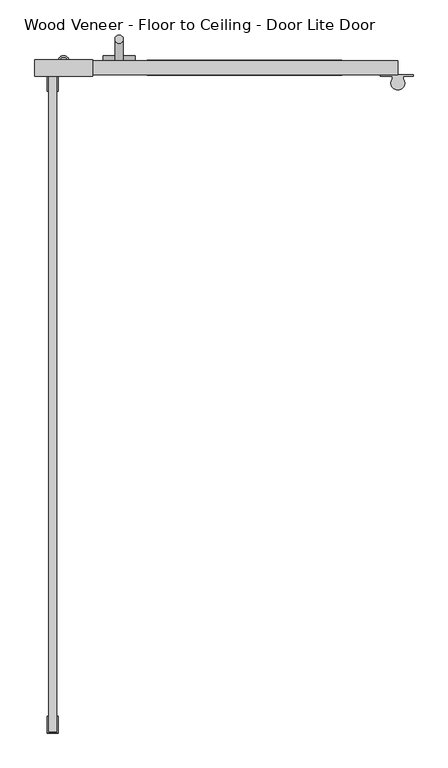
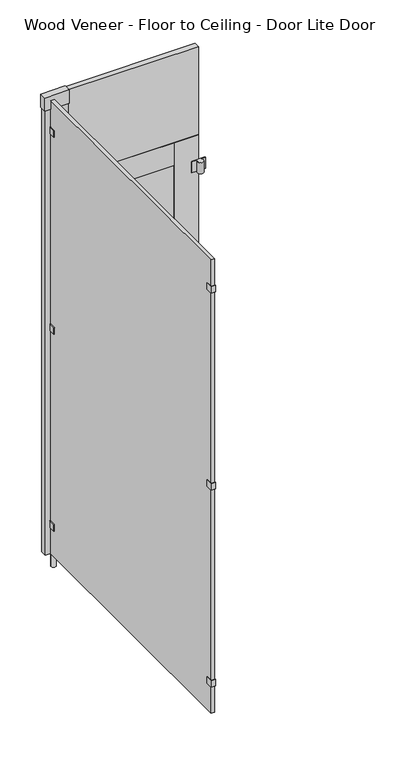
"""IFC4 building model written with IfcOpenShell, lengths in millimetres: proxy geometry, Toilet-Partition_Ironwood-Mfg_Wood-Veneer : Wood Veneer - Floor to Ceiling - Door Lite Door."""

from ifc_helpers import new_model, si_unit, point, frame, frame_2d, origin, place, context, project, spatial, polyline, circle_curve, ellipse_curve, trimmed, segment, composite_curve, outline, extrude, source, transform, mapped, element, save
from ifc_brep_helpers import plane_surface, cylinder_surface, revolved_surface, advanced_brep


def wood_veneer_floor_to_ceiling_door_lite_door_7aed59c0(model_context):
    return source(origin(), model_context, "Body", "SolidModel", [
        advanced_brep(
        [(-177.8, 1555.75, 0.0), (-165.1, 1555.75, 0.0), (-190.5, 1555.75, 0.0), (-165.1, 1555.75, 99.6259642), (-190.5, 1555.75, 99.6259642), (-169.3333333, 1555.75, 101.6), (-186.2666667, 1555.75, 101.6), (-169.3333333, 1555.75, 131.3759642), (-186.2666667, 1555.75, 131.3759642), (-177.8, 1555.75, 131.3759642)],
        [
            (0, 1),
            (1, 2, circle_curve(frame((-177.8, 1555.75, 0.0), z_axis=(0.0, 0.0, -1.0), x_axis=(-1.0, 0.0, 0.0)), 12.7)),
            (2, 0),
            (2, 1, circle_curve(frame((-177.8, 1555.75, 0.0), z_axis=(0.0, 0.0, -1.0), x_axis=(-1.0, 0.0, 0.0)), 12.7)),
            (1, 3),
            (3, 4, circle_curve(frame((-177.8, 1555.75, 99.6259642), z_axis=(0.0, 0.0, -1.0), x_axis=(-1.0, 0.0, 0.0)), 12.7)),
            (4, 2),
            (4, 3, circle_curve(frame((-177.8, 1555.75, 99.6259642), z_axis=(0.0, 0.0, -1.0), x_axis=(-1.0, 0.0, 0.0)), 12.7)),
            (3, 5),
            (5, 6, circle_curve(frame((-177.8, 1555.75, 101.6), z_axis=(0.0, 0.0, -1.0), x_axis=(-1.0, 0.0, 0.0)), 8.4666667)),
            (6, 4),
            (6, 5, circle_curve(frame((-177.8, 1555.75, 101.6), z_axis=(0.0, 0.0, -1.0), x_axis=(-1.0, 0.0, 0.0)), 8.4666667)),
            (5, 7),
            (7, 8, circle_curve(frame((-177.8, 1555.75, 131.3759642), z_axis=(0.0, 0.0, -1.0), x_axis=(-1.0, 0.0, 0.0)), 8.4666667)),
            (8, 6),
            (8, 7, circle_curve(frame((-177.8, 1555.75, 131.3759642), z_axis=(0.0, 0.0, -1.0), x_axis=(-1.0, 0.0, 0.0)), 8.4666667)),
            (7, 9),
            (9, 8),
        ],
        [
            plane_surface(frame((-177.8, 1555.75, 0.0), z_axis=(0.0, 0.0, -1.0), x_axis=(-1.0, 0.0, 0.0))),
            cylinder_surface(frame((-177.8, 1555.75, 131.3759642), z_axis=(0.0, 0.0, -1.0), x_axis=(-1.0, 0.0, 0.0)), 12.7),
            revolved_surface(polyline([(-186.2666667, 1555.75, 101.6), (-190.5, 1555.75, 99.6259642)]), (-177.8, 1555.75, 131.3759642), (0.0, 0.0, -1.0)),
            cylinder_surface(frame((-177.8, 1555.75, 131.3759642), z_axis=(0.0, 0.0, -1.0), x_axis=(-1.0, 0.0, 0.0)), 8.4666667),
            plane_surface(frame((-177.8, 1555.75, 131.3759642), z_axis=(0.0, 0.0, 1.0), x_axis=(-1.0, 0.0, 0.0))),
        ],
        [
            (0, [[1, 2, 3]]),
            (0, [[-3, 4, -1]]),
            (1, [[5, 6, 7, -2]]),
            (1, [[-7, 8, -5, -4]]),
            (2, [[9, 10, 11, -6]]),
            (2, [[-11, 12, -9, -8]]),
            (3, [[13, 14, 15, -10]]),
            (3, [[-15, 16, -13, -12]]),
            (4, [[17, 18, -14]]),
            (4, [[-18, -17, -16]]),
        ],
    ),
        extrude(outline(polyline([(-111.125, 1558.925), (-111.125, 1520.825), (-244.475, 1520.825), (-244.475, 1558.925), (-111.125, 1558.925)])), frame((0.0, 0.0, 2667.0), z_axis=(0.0, 0.0, 1.0), x_axis=(1.0, 0.0, 0.0)), (0.0, 0.0, 1.0), 76.1999999),
        extrude(outline(polyline([(-241.3, 1524.0), (-241.3, 1555.75), (-114.3, 1555.75), (-114.3, 1524.0), (-241.3, 1524.0)])), frame((0.0, 0.0, 101.6), z_axis=(0.0, 0.0, 1.0), x_axis=(1.0, 0.0, 0.0)), (0.0, 0.0, 1.0), 2565.4),
        extrude(outline(polyline([(466.725, 1544.6375), (466.725, 1535.1125), (15.875, 1535.1125), (15.875, 1544.6375), (466.725, 1544.6375)])), frame((0.0, 0.0, 1081.0875), z_axis=(0.0, 0.0, 1.0), x_axis=(1.0, 0.0, 0.0)), (0.0, 0.0, 1.0), 1023.9375),
        extrude(outline(polyline([(466.725, 1544.6375), (466.725, 1535.1125), (15.875, 1535.1125), (15.875, 1544.6375), (466.725, 1544.6375)])), frame((0.0, 0.0, 276.225), z_axis=(0.0, 0.0, 1.0), x_axis=(1.0, 0.0, 0.0)), (0.0, 0.0, 1.0), 674.6875),
        extrude(outline(polyline([(466.725, 1522.4125), (15.875, 1522.4125), (15.875, 1557.3375), (466.725, 1557.3375), (466.725, 1522.4125)])), frame((0.0, 0.0, 950.9125), z_axis=(0.0, 0.0, 1.0), x_axis=(1.0, 0.0, 0.0)), (0.0, 0.0, 1.0), 130.175),
        extrude(outline(polyline([(15.875, 1524.0), (-114.3, 1524.0), (-114.3, 1555.75), (15.875, 1555.75), (15.875, 1524.0)])), frame((0.0, 0.0, 101.6), z_axis=(0.0, 0.0, 1.0), x_axis=(1.0, 0.0, 0.0)), (0.0, 0.0, 1.0), 2133.6),
        extrude(outline(polyline([(466.725, 1524.0), (466.725, 1555.75), (596.9, 1555.75), (596.9, 1524.0), (466.725, 1524.0)])), frame((0.0, 0.0, 101.6), z_axis=(0.0, 0.0, 1.0), x_axis=(1.0, 0.0, 0.0)), (0.0, 0.0, 1.0), 2133.6),
        extrude(outline(polyline([(466.725, 1524.0), (15.875, 1524.0), (15.875, 1555.75), (466.725, 1555.75), (466.725, 1524.0)])), frame((0.0, 0.0, 2105.025), z_axis=(0.0, 0.0, 1.0), x_axis=(1.0, 0.0, 0.0)), (0.0, 0.0, 1.0), 130.175),
        extrude(outline(polyline([(466.725, 1524.0), (15.875, 1524.0), (15.875, 1555.75), (466.725, 1555.75), (466.725, 1524.0)])), frame((0.0, 0.0, 101.6), z_axis=(0.0, 0.0, 1.0), x_axis=(1.0, 0.0, 0.0)), (0.0, 0.0, 1.0), 174.625),
        extrude(outline(composite_curve([segment(trimmed(circle_curve(frame_2d((954.0875, -49.2125)), 36.5125), [point((954.0875, -85.725))], [point((954.0875, -12.7))], False, "CARTESIAN"), True, "CONTINUOUS"), segment(trimmed(circle_curve(frame_2d((954.0875, -49.2125)), 36.5125), [point((954.0875, -12.7))], [point((954.0875, -85.725))], False, "CARTESIAN"), True, "CONTINUOUS")], self_intersect=False)), frame((0.0, 1555.75, 0.0), z_axis=(0.0, 1.0, 0.0), x_axis=(0.0, 0.0, 1.0)), (0.0, 0.0, 1.0), 12.7),
        advanced_brep(
        [(-58.7375, 1555.75, 1219.2), (-39.6875, 1555.75, 1219.2), (-58.7375, 1555.75, 1117.6), (-39.6875, 1555.75, 1117.6), (-58.7375, 1606.55, 1219.2), (-39.6875, 1606.55, 1219.2), (-58.7375, 1606.55, 1117.6), (-39.6875, 1606.55, 1117.6), (-58.7375, 1606.55, 1270.0), (-39.6875, 1606.55, 1270.0), (-58.7375, 1606.55, 1066.8), (-39.6875, 1606.55, 1066.8)],
        [
            (0, 1, circle_curve(frame((-49.2125, 1555.75, 1219.2), z_axis=(0.0, -1.0, 0.0), x_axis=(1.0, 0.0, 0.0)), 9.525)),
            (1, 0, circle_curve(frame((-49.2125, 1555.75, 1219.2), z_axis=(0.0, -1.0, 0.0), x_axis=(1.0, 0.0, 0.0)), 9.525)),
            (2, 3, circle_curve(frame((-49.2125, 1555.75, 1117.6), z_axis=(0.0, -1.0, 0.0), x_axis=(1.0, 0.0, 0.0)), 9.525)),
            (3, 2, circle_curve(frame((-49.2125, 1555.75, 1117.6), z_axis=(0.0, -1.0, 0.0), x_axis=(1.0, 0.0, 0.0)), 9.525)),
            (0, 4),
            (4, 5, ellipse_curve(frame((-49.2125, 1606.55, 1219.2), z_axis=(0.0, -0.7071067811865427, 0.7071067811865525), x_axis=(0.0, 0.7071067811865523, 0.7071067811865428)), 13.4703842, 9.525)),
            (5, 1),
            (5, 4, ellipse_curve(frame((-49.2125, 1606.55, 1219.2), z_axis=(0.0, -0.7071067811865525, -0.7071067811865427), x_axis=(0.0, 0.7071067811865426, -0.7071067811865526)), 13.4703842, 9.525)),
            (2, 6),
            (6, 7, ellipse_curve(frame((-49.2125, 1606.55, 1117.6), z_axis=(0.0, -0.7071067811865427, 0.7071067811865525), x_axis=(0.0, 0.7071067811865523, 0.7071067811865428)), 13.4703842, 9.525)),
            (7, 3),
            (7, 6, ellipse_curve(frame((-49.2125, 1606.55, 1117.6), z_axis=(0.0, -0.7071067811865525, -0.7071067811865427), x_axis=(0.0, 0.7071067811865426, -0.7071067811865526)), 13.4703842, 9.525)),
            (8, 9, circle_curve(frame((-49.2125, 1606.55, 1270.0), z_axis=(0.0, 0.0, 1.0), x_axis=(1.0, 0.0, 0.0)), 9.525)),
            (9, 8, circle_curve(frame((-49.2125, 1606.55, 1270.0), z_axis=(0.0, 0.0, 1.0), x_axis=(1.0, 0.0, 0.0)), 9.525)),
            (10, 11, circle_curve(frame((-49.2125, 1606.55, 1066.8), z_axis=(0.0, 0.0, -1.0), x_axis=(1.0, 0.0, 0.0)), 9.525)),
            (11, 10, circle_curve(frame((-49.2125, 1606.55, 1066.8), z_axis=(0.0, 0.0, -1.0), x_axis=(1.0, 0.0, 0.0)), 9.525)),
            (9, 5),
            (5, 7),
            (7, 11),
            (10, 6),
            (6, 4),
            (4, 8),
        ],
        [
            plane_surface(frame((-39.6875, 1555.75, 1219.2), z_axis=(0.0, -1.0, 0.0), x_axis=(0.0, 0.0, -1.0))),
            cylinder_surface(frame((-49.2125, 1555.75, 1219.2), z_axis=(0.0, 1.0, 0.0), x_axis=(1.0, 0.0, 0.0)), 9.525),
            cylinder_surface(frame((-49.2125, 1555.75, 1117.6), z_axis=(0.0, 1.0, 0.0), x_axis=(1.0, 0.0, 0.0)), 9.525),
            plane_surface(frame((-39.6875, 1606.55, 1270.0), z_axis=(0.0, 0.0, 1.0), x_axis=(0.0, -1.0, 0.0))),
            plane_surface(frame((-39.6875, 1606.55, 1066.8), z_axis=(0.0, 0.0, -1.0), x_axis=(0.0, 1.0, 0.0))),
            cylinder_surface(frame((-49.2125, 1606.55, 1066.8), z_axis=(0.0, 0.0, 1.0), x_axis=(1.0, 0.0, 0.0)), 9.525),
        ],
        [
            (0, [[1, 2]]),
            (0, [[3, 4]]),
            (1, [[5, 6, 7, -1]]),
            (1, [[-7, 8, -5, -2]]),
            (2, [[9, 10, 11, -3]]),
            (2, [[-11, 12, -9, -4]]),
            (3, [[13, 14]]),
            (4, [[15, 16]]),
            (5, [[17, 18, 19, -15, 20, 21, 22, -14]]),
            (5, [[-12, -18, -6, -21]]),
            (5, [[-22, -8, -17, -13]]),
            (5, [[-19, -10, -20, -16]]),
        ],
    ),
        extrude(outline(composite_curve([segment(polyline([(632.1737081, 1524.0), (632.1737081, 1520.825), (609.2512919, 1520.825), (609.2512919, 1514.9581331)]), True, "CONTINUOUS"), segment(trimmed(circle_curve(frame_2d((596.9, 1504.8902139)), 15.9347861), [point((609.2512919, 1514.9581331))], [point((584.5487081, 1514.9581331))], False, "CARTESIAN"), True, "CONTINUOUS"), segment(polyline([(584.5487081, 1514.9581331), (584.5487081, 1520.825), (555.9737081, 1520.825), (555.9737081, 1524.0), (632.1737081, 1524.0)]), True, "CONTINUOUS")], self_intersect=False)), frame((0.0, 0.0, 2032.0), z_axis=(0.0, 0.0, 1.0), x_axis=(1.0, 0.0, 0.0)), (0.0, 0.0, 1.0), 63.5),
        extrude(outline(composite_curve([segment(polyline([(632.1737081, 1524.0), (632.1737081, 1520.825), (609.2512919, 1520.825), (609.2512919, 1514.9581331)]), True, "CONTINUOUS"), segment(trimmed(circle_curve(frame_2d((596.9, 1504.8902139)), 15.9347861), [point((609.2512919, 1514.9581331))], [point((584.5487081, 1514.9581331))], False, "CARTESIAN"), True, "CONTINUOUS"), segment(polyline([(584.5487081, 1514.9581331), (584.5487081, 1520.825), (555.9737081, 1520.825), (555.9737081, 1524.0), (632.1737081, 1524.0)]), True, "CONTINUOUS")], self_intersect=False)), frame((0.0, 0.0, 1136.6500001), z_axis=(0.0, 0.0, 1.0), x_axis=(1.0, 0.0, 0.0)), (0.0, 0.0, 1.0), 63.5),
        extrude(outline(composite_curve([segment(polyline([(632.1737081, 1524.0), (632.1737081, 1520.825), (609.2512919, 1520.825), (609.2512919, 1514.9581331)]), True, "CONTINUOUS"), segment(trimmed(circle_curve(frame_2d((596.9, 1504.8902139)), 15.9347861), [point((609.2512919, 1514.9581331))], [point((584.5487081, 1514.9581331))], False, "CARTESIAN"), True, "CONTINUOUS"), segment(polyline([(584.5487081, 1514.9581331), (584.5487081, 1520.825), (555.9737081, 1520.825), (555.9737081, 1524.0), (632.1737081, 1524.0)]), True, "CONTINUOUS")], self_intersect=False)), frame((0.0, 0.0, 241.3), z_axis=(0.0, 0.0, 1.0), x_axis=(1.0, 0.0, 0.0)), (0.0, 0.0, 1.0), 63.5),
        extrude(outline(polyline([(-212.598, 1485.9), (-215.773, 1485.9), (-215.773, 1524.0), (-190.373, 1524.0), (-190.373, 1485.9), (-193.548, 1485.9), (-193.548, 1520.825), (-212.598, 1520.825), (-212.598, 1485.9)])), frame((0.0, 0.0, 2527.6188137), z_axis=(0.0, 0.0, 1.0), x_axis=(1.0, 0.0, 0.0)), (0.0, 0.0, 1.0), 38.1),
        extrude(outline(polyline([(-212.598, 38.1), (-212.598, 3.175), (-193.548, 3.175), (-193.548, 38.1), (-190.373, 38.1), (-190.373, 0.0), (-215.773, 0.0), (-215.773, 38.1), (-212.598, 38.1)])), frame((0.0, 0.0, 2527.6188137), z_axis=(0.0, 0.0, 1.0), x_axis=(1.0, 0.0, 0.0)), (0.0, 0.0, 1.0), 38.1),
        extrude(outline(polyline([(-212.598, 1485.9), (-215.773, 1485.9), (-215.773, 1524.0), (-190.373, 1524.0), (-190.373, 1485.9), (-193.548, 1485.9), (-193.548, 1520.825), (-212.598, 1520.825), (-212.598, 1485.9)])), frame((0.0, 0.0, 1390.65), z_axis=(0.0, 0.0, 1.0), x_axis=(1.0, 0.0, 0.0)), (0.0, 0.0, 1.0), 38.1),
        extrude(outline(polyline([(-212.598, 38.1), (-212.598, 3.175), (-193.548, 3.175), (-193.548, 38.1), (-190.373, 38.1), (-190.373, 0.0), (-215.773, 0.0), (-215.773, 38.1), (-212.598, 38.1)])), frame((0.0, 0.0, 1390.65), z_axis=(0.0, 0.0, 1.0), x_axis=(1.0, 0.0, 0.0)), (0.0, 0.0, 1.0), 38.1),
        extrude(outline(polyline([(-212.598, 1485.9), (-215.773, 1485.9), (-215.773, 1524.0), (-190.373, 1524.0), (-190.373, 1485.9), (-193.548, 1485.9), (-193.548, 1520.825), (-212.598, 1520.825), (-212.598, 1485.9)])), frame((0.0, 0.0, 254.0), z_axis=(0.0, 0.0, 1.0), x_axis=(1.0, 0.0, 0.0)), (0.0, 0.0, 1.0), 38.1),
        extrude(outline(polyline([(-212.598, 38.1), (-212.598, 3.175), (-193.548, 3.175), (-193.548, 38.1), (-190.373, 38.1), (-190.373, 0.0), (-215.773, 0.0), (-215.773, 38.1), (-212.598, 38.1)])), frame((0.0, 0.0, 254.0), z_axis=(0.0, 0.0, 1.0), x_axis=(1.0, 0.0, 0.0)), (0.0, 0.0, 1.0), 38.1),
        extrude(outline(polyline([(-193.548, 3.175), (-212.598, 3.175), (-212.598, 1520.825), (-193.548, 1520.825), (-193.548, 3.175)])), frame((0.0, 0.0, 101.6), z_axis=(0.0, 0.0, 1.0), x_axis=(1.0, 0.0, 0.0)), (0.0, 0.0, 1.0), 2616.2),
        extrude(outline(polyline([(596.9, 1524.0), (-114.3, 1524.0), (-114.3, 1555.75), (596.9, 1555.75), (596.9, 1524.0)])), frame((0.0, 0.0, 2236.7875), z_axis=(0.0, 0.0, 1.0), x_axis=(1.0, 0.0, 0.0)), (0.0, 0.0, 1.0), 506.4125),
    ])


if __name__ == "__main__":
    model = new_model("IFC4")
    model_context = context("Model", 3, world=origin())
    ifc_project = project(units=[si_unit("LENGTHUNIT", "METRE", prefix="MILLI")], contexts=[model_context])
    site = spatial("IfcSite", under=ifc_project)
    building = spatial("IfcBuilding", under=site)
    placement = place(None, origin())
    wood_veneer_floor_to_ceiling_door_lite_door_shape = wood_veneer_floor_to_ceiling_door_lite_door_7aed59c0(model_context)
    element("IfcBuildingElementProxy", 1, Name="Toilet-Partition_Ironwood-Mfg_Wood-Veneer : Wood Veneer - Floor to Ceiling - Door Lite Door", ObjectType="Toilet-Partition_Ironwood-Mfg_Wood-Veneer : Wood Veneer - Floor to Ceiling - Door Lite Door", at=placement, inside=building, context=model_context, shape_type="MappedRepresentation", body=[
        mapped(wood_veneer_floor_to_ceiling_door_lite_door_shape, transform((0.0, 0.0, 0.0), x_axis=(1.0, 0.0, 0.0), y_axis=(0.0, 1.0, 0.0), z_axis=(0.0, 0.0, 1.0))),
    ])
    save(model, "model.ifc")
